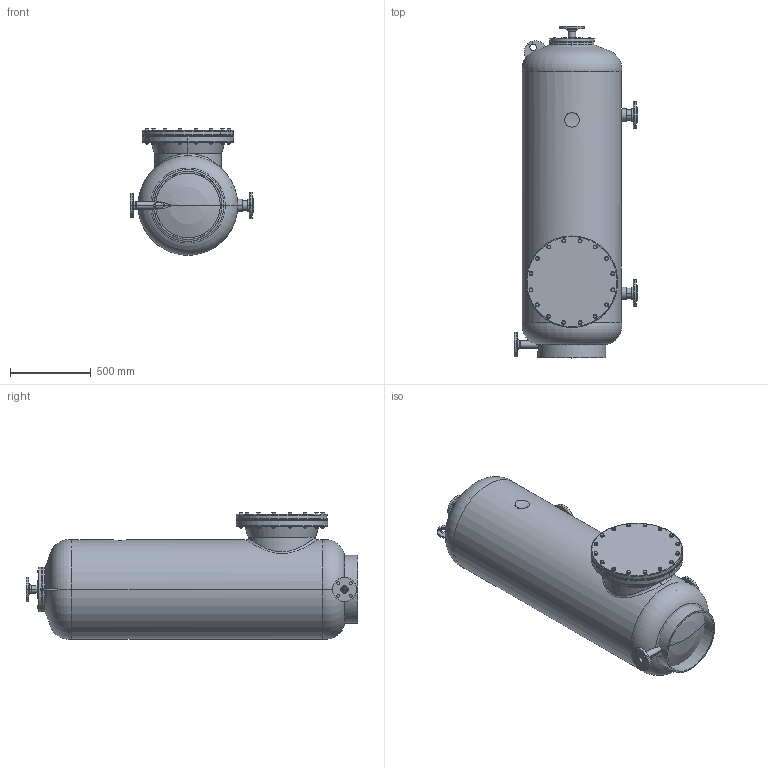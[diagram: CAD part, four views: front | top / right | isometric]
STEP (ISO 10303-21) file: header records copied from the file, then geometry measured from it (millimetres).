
FILE_DESCRIPTION (( 'STEP AP214' ), '1' );
FILE_NAME ('adriatic60c.STEP', '2020-11-04T09:45:47', ( '' ), ( '' ), 'SwSTEP 2.0', 'SolidWorks 2019', '' );
FILE_SCHEMA (( 'AUTOMOTIVE_DESIGN' ));
Length unit declared in the file: millimetre
Products named in the file (1): adriatic60c
Bounding box: 761.91 x 2049.94 x 781.21 mm (x, y, z)
Surface area: 9810934.1 mm2 (no closed solid volume)
Topology: 0 solids, 106 shells, 1619 faces, 3585 edges, 2192 vertices
Faces by surface type: cone 542, cylinder 499, plane 481, torus 74, sphere 19, bspline 4
Entity records: 86314 total; most frequent: CARTESIAN_POINT 32800, DIRECTION 7121, ORIENTED_EDGE 7060, EDGE_CURVE 3546, AXIS2_PLACEMENT_3D 3073, VERTEX_POINT 2177, EDGE_LOOP 1925, UNCERTAINTY_MEASURE_WITH_UNIT 1712
